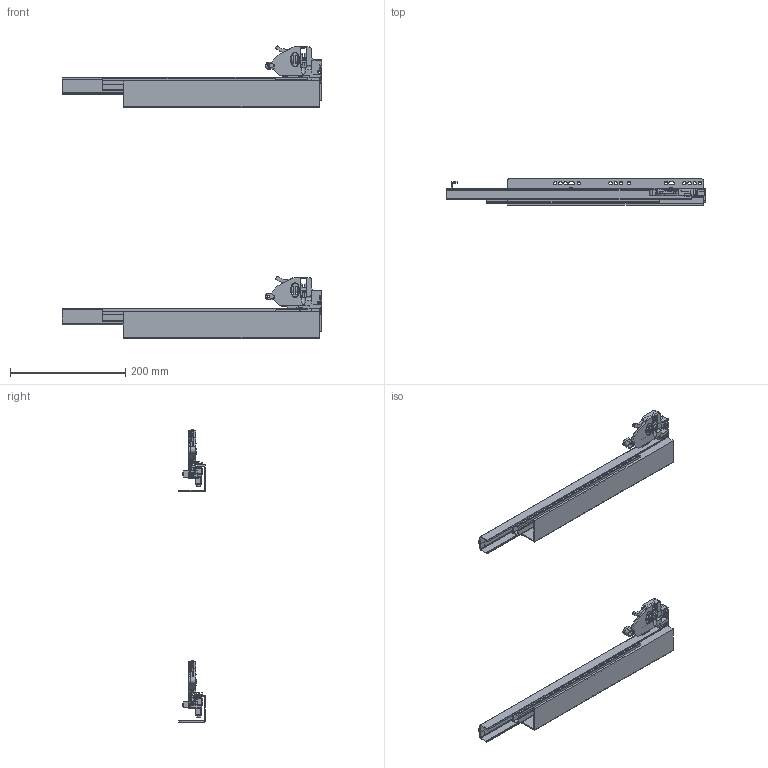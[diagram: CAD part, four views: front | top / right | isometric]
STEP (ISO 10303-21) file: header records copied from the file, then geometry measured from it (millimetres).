
FILE_DESCRIPTION(/* description */ (''),/* implementation_level */ '2;1');
FILE_NAME(/* name */ 'C:\Users\dmitruk\Documents\WORK\НАПРАВЛЯЮЩИЕ\Скрытого монтажаНаправляющие скрытого монтажа 3D-450.stp',/* time_stamp */ '2022-07-29T12:20:46+03:00',/* author */ ('dmitruk'),/* organization */ (''),/* preprocessor_version */ 'ST-DEVELOPER v16.5',/* originating_system */ 'Autodesk Inventor 2017',/* authorisation */ '');
FILE_SCHEMA (('AUTOMOTIVE_DESIGN { 1 0 10303 214 3 1 1 }'));
Length unit declared in the file: millimetre
Products named in the file (6): Направляющие \X2\0441043A
0440044B0442043E0433043E\X0\ монтажа 3D; Направляющие \X2\0441043A
0440044B0442043E0433043E\X0\ монтажа 3D \X2\043F
044004300432\X0\; 3D CP; 3D DP; Крепление 3D \X2\043B
04350432\X0\; 3D Направляющие \X2\0441043A
0440044B0442043E0433043E\X0\ монтажа \X2\043F
043E043B043D043E0433043E\X0\ \X2\0432044B04340432043804360435043D0438044F
\X0\ slim DW slim slide
Assembly tree (6 placements, depth 3):
  Направляющие \X2\0441043A
0440044B0442043E0433043E\X0\ монтажа 3D
    Направляющие \X2\0441043A
0440044B0442043E0433043E\X0\ монтажа 3D \X2\043F
044004300432\X0\  x2
      3D CP
      3D DP
      Крепление 3D \X2\043B
04350432\X0\
      3D Направляющие \X2\0441043A
0440044B0442043E0433043E\X0\ монтажа \X2\043F
043E043B043D043E0433043E\X0\ \X2\0432044B04340432043804360435043D0438044F
\X0\ slim DW slim slide
Bounding box: 450 x 46 x 506.67 mm (x, y, z)
Volume: 303795.8 mm3; surface area: 387228.6 mm2
Topology: 24 solids, 24 shells, 994 faces, 2810 edges, 1850 vertices
Faces by surface type: plane 772, cylinder 208, cone 6, sphere 4, bspline 2, torus 2
Full cylindrical faces by diameter (mm): 3.8 x10, 6 x52, 7 x2, 12 x4
Entity records: 16307 total; most frequent: CARTESIAN_POINT 2955, ORIENTED_EDGE 2734, DIRECTION 2605, EDGE_CURVE 1364, LINE 1127, VECTOR 1127, VERTEX_POINT 921, AXIS2_PLACEMENT_3D 739
